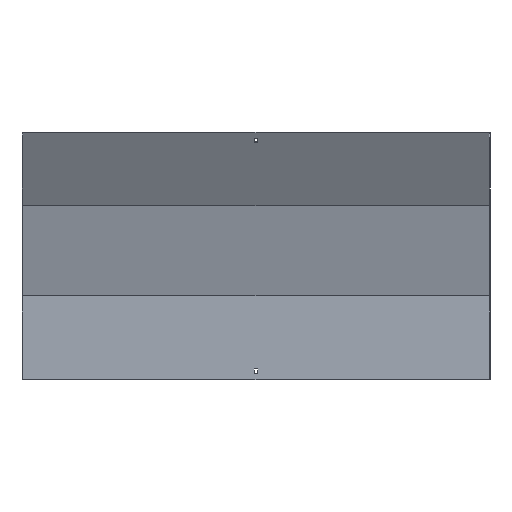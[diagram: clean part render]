
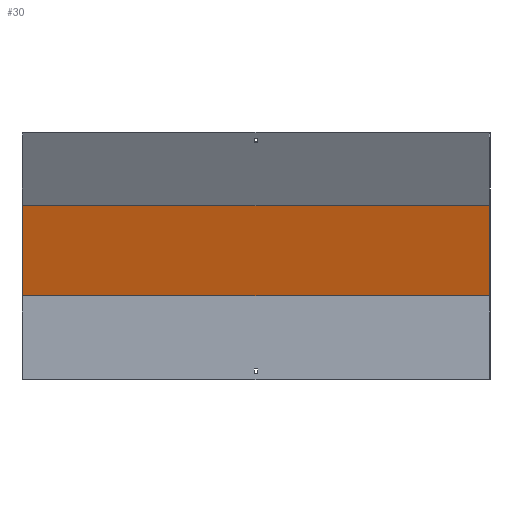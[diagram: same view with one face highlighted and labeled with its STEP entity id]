
A CAD part, front view. The second image highlights one B-rep face of the part: STEP entity #30.
In plain terms, the highlighted planar face has unit normal (0, -0.966, -0.259).
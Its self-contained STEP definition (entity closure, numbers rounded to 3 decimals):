
#30 = ADVANCED_FACE ( 'NONE', ( #625 ), #748, .T. ) ;
#41 = VERTEX_POINT ( 'NONE', #432 ) ;
#57 = VERTEX_POINT ( 'NONE', #688 ) ;
#73 = CARTESIAN_POINT ( 'NONE',  ( 451.5, -28.054, 336.178 ) ) ;
#88 = VECTOR ( 'NONE', #782, 1000. ) ;
#93 = CARTESIAN_POINT ( 'NONE',  ( 451.5, 17.87, 164.788 ) ) ;
#182 = EDGE_CURVE ( 'NONE', #609, #57, #722, .T. ) ;
#252 = VECTOR ( 'NONE', #463, 1000. ) ;
#259 = CARTESIAN_POINT ( 'NONE',  ( 451.5, 18.5, 162.436 ) ) ;
#264 = DIRECTION ( 'NONE',  ( 0., -0.259, 0.966 ) ) ;
#265 = CARTESIAN_POINT ( 'NONE',  ( 450., 18.5, 162.436 ) ) ;
#274 = ORIENTED_EDGE ( 'NONE', *, *, #497, .F. ) ;
#291 = DIRECTION ( 'NONE',  ( 0., -0.966, -0.259 ) ) ;
#314 = ORIENTED_EDGE ( 'NONE', *, *, #762, .F. ) ;
#341 = CARTESIAN_POINT ( 'NONE',  ( -450., 57.87, 15.506 ) ) ;
#352 = AXIS2_PLACEMENT_3D ( 'NONE', #93, #291, #820 ) ;
#354 = VECTOR ( 'NONE', #264, 1000. ) ;
#404 = LINE ( 'NONE', #341, #828 ) ;
#432 = CARTESIAN_POINT ( 'NONE',  ( -450., 18.5, 162.436 ) ) ;
#457 = CARTESIAN_POINT ( 'NONE',  ( 450., 57.87, 15.506 ) ) ;
#463 = DIRECTION ( 'NONE',  ( -1., 0., 0. ) ) ;
#464 = CARTESIAN_POINT ( 'NONE',  ( 450., -28.054, 336.178 ) ) ;
#497 = EDGE_CURVE ( 'NONE', #570, #41, #775, .T. ) ;
#520 = EDGE_CURVE ( 'NONE', #570, #609, #852, .T. ) ;
#555 = ORIENTED_EDGE ( 'NONE', *, *, #520, .T. ) ;
#570 = VERTEX_POINT ( 'NONE', #265 ) ;
#609 = VERTEX_POINT ( 'NONE', #464 ) ;
#625 = FACE_OUTER_BOUND ( 'NONE', #832, .T. ) ;
#651 = ORIENTED_EDGE ( 'NONE', *, *, #182, .T. ) ;
#688 = CARTESIAN_POINT ( 'NONE',  ( -450., -28.054, 336.178 ) ) ;
#708 = DIRECTION ( 'NONE',  ( 0., -0.259, 0.966 ) ) ;
#722 = LINE ( 'NONE', #73, #88 ) ;
#748 = PLANE ( 'NONE',  #352 ) ;
#762 = EDGE_CURVE ( 'NONE', #41, #57, #404, .T. ) ;
#775 = LINE ( 'NONE', #259, #252 ) ;
#782 = DIRECTION ( 'NONE',  ( -1., 0., 0. ) ) ;
#820 = DIRECTION ( 'NONE',  ( 0., 0.259, -0.966 ) ) ;
#828 = VECTOR ( 'NONE', #708, 1000. ) ;
#832 = EDGE_LOOP ( 'NONE', ( #314, #274, #555, #651 ) ) ;
#852 = LINE ( 'NONE', #457, #354 ) ;
